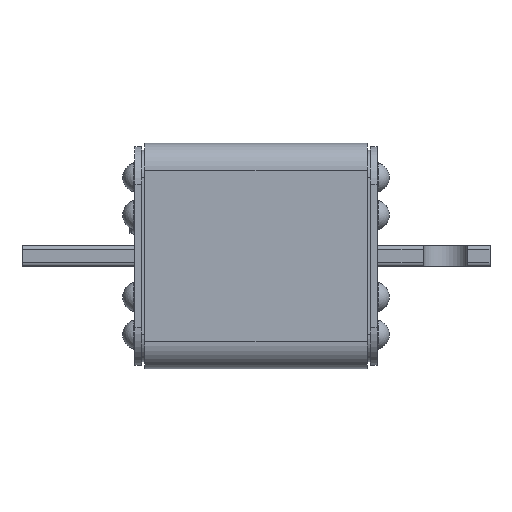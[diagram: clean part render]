
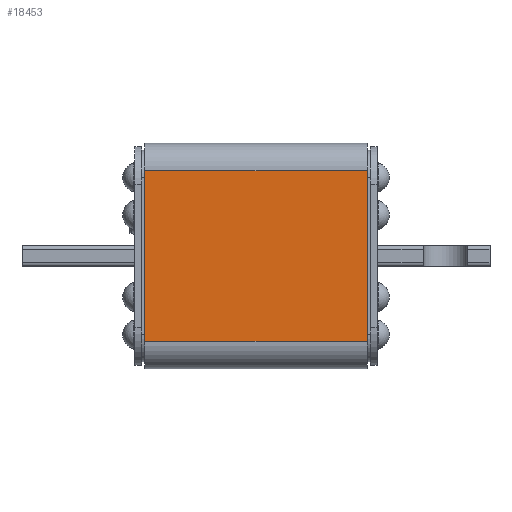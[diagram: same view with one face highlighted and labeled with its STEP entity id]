
A CAD part, front view. The second image highlights one B-rep face of the part: STEP entity #18453.
In plain terms, the highlighted planar face has unit normal (0, -1, 0).
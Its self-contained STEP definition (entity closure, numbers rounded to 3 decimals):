
#323 = EDGE_CURVE ( 'NONE', #2966, #7858, #9580, .T. ) ;
#892 = CARTESIAN_POINT ( 'NONE',  ( -32., -33., 25. ) ) ;
#1747 = DIRECTION ( 'NONE',  ( 0., 0., 1. ) ) ;
#2786 = VECTOR ( 'NONE', #6498, 1000. ) ;
#2874 = CARTESIAN_POINT ( 'NONE',  ( -32., -33., -25. ) ) ;
#2966 = VERTEX_POINT ( 'NONE', #2874 ) ;
#6156 = DIRECTION ( 'NONE',  ( 1., 0., 0. ) ) ;
#6410 = FACE_OUTER_BOUND ( 'NONE', #13158, .T. ) ;
#6498 = DIRECTION ( 'NONE',  ( 0., 0., 1. ) ) ;
#6920 = ORIENTED_EDGE ( 'NONE', *, *, #11632, .F. ) ;
#7478 = VECTOR ( 'NONE', #6156, 1000. ) ;
#7858 = VERTEX_POINT ( 'NONE', #17484 ) ;
#8027 = CARTESIAN_POINT ( 'NONE',  ( 33., -33., 25. ) ) ;
#8052 = DIRECTION ( 'NONE',  ( 1., 0., 0. ) ) ;
#9580 = LINE ( 'NONE', #11377, #13214 ) ;
#9877 = LINE ( 'NONE', #8027, #2786 ) ;
#10612 = LINE ( 'NONE', #14072, #7478 ) ;
#11377 = CARTESIAN_POINT ( 'NONE',  ( -32., -33., 25. ) ) ;
#11632 = EDGE_CURVE ( 'NONE', #7858, #17304, #10612, .T. ) ;
#11970 = VECTOR ( 'NONE', #8052, 1000. ) ;
#12707 = CARTESIAN_POINT ( 'NONE',  ( -32., -33., -25. ) ) ;
#13158 = EDGE_LOOP ( 'NONE', ( #19290, #6920, #19957, #14264 ) ) ;
#13214 = VECTOR ( 'NONE', #1747, 1000. ) ;
#13373 = DIRECTION ( 'NONE',  ( 0., 0., -1. ) ) ;
#13444 = PLANE ( 'NONE',  #18469 ) ;
#14072 = CARTESIAN_POINT ( 'NONE',  ( -32., -33., 25. ) ) ;
#14264 = ORIENTED_EDGE ( 'NONE', *, *, #18772, .T. ) ;
#14428 = CARTESIAN_POINT ( 'NONE',  ( 33., -33., 25. ) ) ;
#15082 = DIRECTION ( 'NONE',  ( 0., 1., 0. ) ) ;
#15991 = VERTEX_POINT ( 'NONE', #17577 ) ;
#17304 = VERTEX_POINT ( 'NONE', #14428 ) ;
#17484 = CARTESIAN_POINT ( 'NONE',  ( -32., -33., 25. ) ) ;
#17577 = CARTESIAN_POINT ( 'NONE',  ( 33., -33., -25. ) ) ;
#17759 = EDGE_CURVE ( 'NONE', #15991, #17304, #9877, .T. ) ;
#18453 = ADVANCED_FACE ( 'NONE', ( #6410 ), #13444, .F. ) ;
#18469 = AXIS2_PLACEMENT_3D ( 'NONE', #892, #15082, #13373 ) ;
#18772 = EDGE_CURVE ( 'NONE', #2966, #15991, #20282, .T. ) ;
#19290 = ORIENTED_EDGE ( 'NONE', *, *, #17759, .T. ) ;
#19957 = ORIENTED_EDGE ( 'NONE', *, *, #323, .F. ) ;
#20282 = LINE ( 'NONE', #12707, #11970 ) ;
